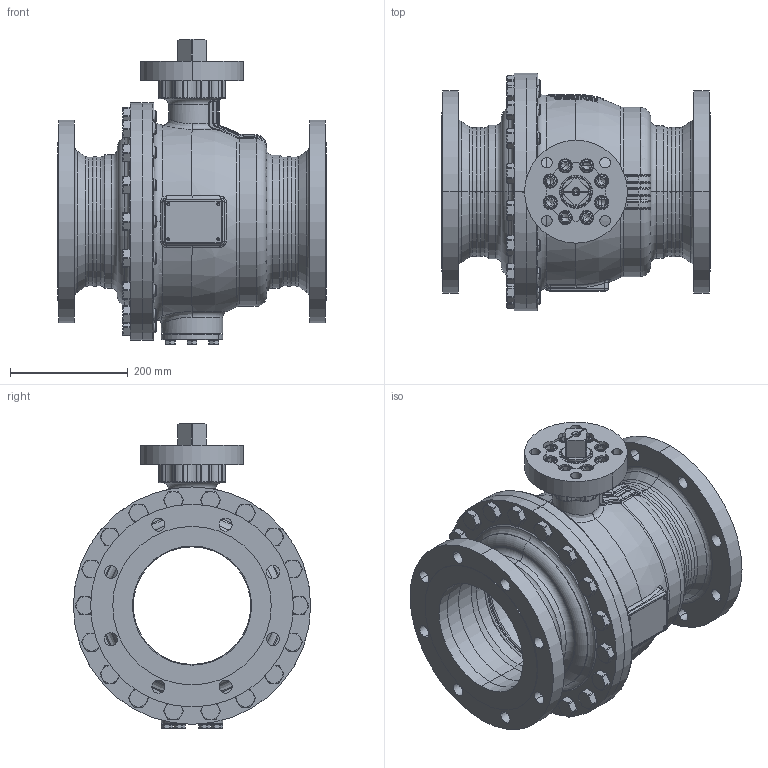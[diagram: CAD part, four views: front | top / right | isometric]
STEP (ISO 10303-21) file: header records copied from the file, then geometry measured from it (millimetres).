
FILE_DESCRIPTION((''),'2;1');
FILE_NAME('KHI-F_200_CL150-F14-4_SW0001','2026-02-05T12:57:15',('fischerkl'),('KLINGER'),'CREO PARAMETRIC BY PTC INC, 2023014','CREO PARAMETRIC BY PTC INC, 2023014','');
FILE_SCHEMA(('CONFIG_CONTROL_DESIGN'));
Products named in the file (1): KHI-F_200_CL150-F14-4_SW0001
Bounding box: 457 x 404 x 519.2 mm (x, y, z)
Volume: 13468714.8 mm3; surface area: 2256018.7 mm2
Topology: 1 solids, 4 shells, 3793 faces, 9706 edges, 6047 vertices
Faces by surface type: plane 2302, cylinder 702, cone 364, torus 287, bspline 108, sphere 30
Entity records: 147971 total; most frequent: CARTESIAN_POINT 58201, ORIENTED_EDGE 19360, DIRECTION 17831, EDGE_CURVE 9680, AXIS2_PLACEMENT_3D 6323, VERTEX_POINT 6047, VECTOR 5185, LINE 5185
